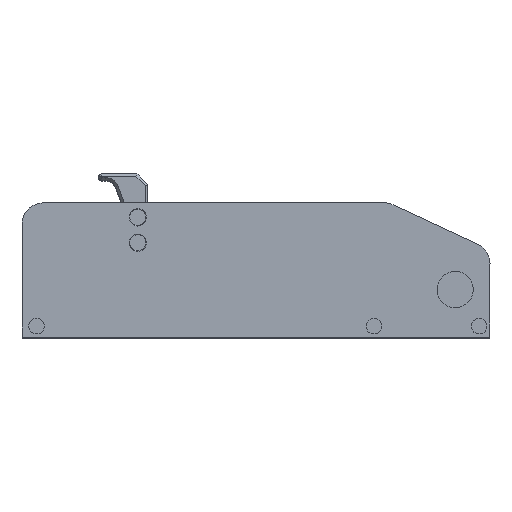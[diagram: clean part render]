
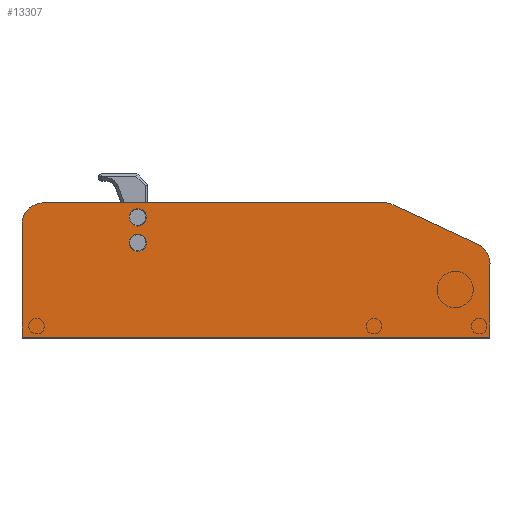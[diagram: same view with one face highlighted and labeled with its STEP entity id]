
A CAD part, top view. The second image highlights one B-rep face of the part: STEP entity #13307.
In plain terms, the highlighted planar face has unit normal (0, 0, 1).
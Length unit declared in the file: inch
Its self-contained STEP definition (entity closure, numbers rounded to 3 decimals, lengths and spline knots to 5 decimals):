
#13211=CARTESIAN_POINT('',(4.70732,2.90948,1.79492));
#13212=DIRECTION('',(0.0,0.0,1.0));
#13213=DIRECTION('',(1.0,0.,0.0));
#13214=AXIS2_PLACEMENT_3D('',#13211,#13212,#13213);
#13215=PLANE('',#13214);
#13216=CARTESIAN_POINT('',(8.52205,3.3542,1.79492));
#13217=VERTEX_POINT('',#13216);
#13218=CARTESIAN_POINT('',(8.73857,3.01433,1.79492));
#13219=VERTEX_POINT('',#13218);
#13220=CARTESIAN_POINT('',(8.36357,3.01433,1.79492));
#13221=DIRECTION('',(0.,0.,-1.0));
#13222=DIRECTION('',(0.843,0.537,0.));
#13223=AXIS2_PLACEMENT_3D('',#13220,#13221,#13222);
#13224=CIRCLE('',#13223,0.375);
#13225=EDGE_CURVE('',#13217,#13219,#13224,.T.);
#13226=ORIENTED_EDGE('',*,*,#13225,.F.);
#13227=CARTESIAN_POINT('',(7.0715,4.0306,1.79492));
#13228=VERTEX_POINT('',#13227);
#13229=CARTESIAN_POINT('',(8.52205,3.3542,1.79492));
#13230=DIRECTION('',(-0.906,0.423,0.));
#13231=VECTOR('',#13230,1.6005);
#13232=LINE('',#13229,#13231);
#13233=EDGE_CURVE('',#13217,#13228,#13232,.T.);
#13234=ORIENTED_EDGE('',*,*,#13233,.T.);
#13235=CARTESIAN_POINT('',(6.91302,4.06573,1.79492));
#13236=VERTEX_POINT('',#13235);
#13237=CARTESIAN_POINT('',(6.91302,3.69073,1.79492));
#13238=DIRECTION('',(0.,0.,-1.0));
#13239=DIRECTION('',(0.216,0.976,0.));
#13240=AXIS2_PLACEMENT_3D('',#13237,#13238,#13239);
#13241=CIRCLE('',#13240,0.375);
#13242=EDGE_CURVE('',#13236,#13228,#13241,.T.);
#13243=ORIENTED_EDGE('',*,*,#13242,.F.);
#13244=CARTESIAN_POINT('',(1.05107,4.06573,1.79492));
#13245=VERTEX_POINT('',#13244);
#13246=CARTESIAN_POINT('',(1.05107,4.06573,1.79492));
#13247=DIRECTION('',(1.0,0.,0.));
#13248=VECTOR('',#13247,5.86195);
#13249=LINE('',#13246,#13248);
#13250=EDGE_CURVE('',#13245,#13236,#13249,.T.);
#13251=ORIENTED_EDGE('',*,*,#13250,.F.);
#13252=CARTESIAN_POINT('',(0.67607,3.69073,1.79492));
#13253=VERTEX_POINT('',#13252);
#13254=CARTESIAN_POINT('',(1.05107,3.69073,1.79492));
#13255=DIRECTION('',(0.,0.,-1.));
#13256=DIRECTION('',(-0.707,0.707,0.));
#13257=AXIS2_PLACEMENT_3D('',#13254,#13255,#13256);
#13258=CIRCLE('',#13257,0.375);
#13259=EDGE_CURVE('',#13253,#13245,#13258,.T.);
#13260=ORIENTED_EDGE('',*,*,#13259,.F.);
#13261=CARTESIAN_POINT('',(0.67607,1.75323,1.79492));
#13262=VERTEX_POINT('',#13261);
#13263=CARTESIAN_POINT('',(0.67607,1.75323,1.79492));
#13264=DIRECTION('',(0.,1.0,0.0));
#13265=VECTOR('',#13264,1.9375);
#13266=LINE('',#13263,#13265);
#13267=EDGE_CURVE('',#13262,#13253,#13266,.T.);
#13268=ORIENTED_EDGE('',*,*,#13267,.F.);
#13269=CARTESIAN_POINT('',(8.73857,1.75323,1.79492));
#13270=VERTEX_POINT('',#13269);
#13271=CARTESIAN_POINT('',(8.73857,1.75323,1.79492));
#13272=DIRECTION('',(-1.0,0.,0.));
#13273=VECTOR('',#13272,8.0625);
#13274=LINE('',#13271,#13273);
#13275=EDGE_CURVE('',#13270,#13262,#13274,.T.);
#13276=ORIENTED_EDGE('',*,*,#13275,.F.);
#13277=CARTESIAN_POINT('',(8.73857,3.01433,1.79492));
#13278=DIRECTION('',(0.,-1.0,0.0));
#13279=VECTOR('',#13278,1.2611);
#13280=LINE('',#13277,#13279);
#13281=EDGE_CURVE('',#13219,#13270,#13280,.T.);
#13282=ORIENTED_EDGE('',*,*,#13281,.F.);
#13283=EDGE_LOOP('',(#13226,#13234,#13243,#13251,#13260,#13268,#13276,#13282));
#13284=FACE_OUTER_BOUND('',#13283,.T.);
#13285=CARTESIAN_POINT('',(2.81957,3.37823,1.79492));
#13286=VERTEX_POINT('',#13285);
#13287=CARTESIAN_POINT('',(2.66957,3.37823,1.79492));
#13288=DIRECTION('',(0.,0.,-1.0));
#13289=DIRECTION('',(1.0,0.,0.));
#13290=AXIS2_PLACEMENT_3D('',#13287,#13288,#13289);
#13291=CIRCLE('',#13290,0.15);
#13292=EDGE_CURVE('',#13286,#13286,#13291,.T.);
#13293=ORIENTED_EDGE('',*,*,#13292,.T.);
#13294=EDGE_LOOP('',(#13293));
#13295=FACE_BOUND('',#13294,.T.);
#13296=CARTESIAN_POINT('',(2.81957,3.81573,1.79492));
#13297=VERTEX_POINT('',#13296);
#13298=CARTESIAN_POINT('',(2.66957,3.81573,1.79492));
#13299=DIRECTION('',(0.,0.,-1.0));
#13300=DIRECTION('',(1.0,0.,0.));
#13301=AXIS2_PLACEMENT_3D('',#13298,#13299,#13300);
#13302=CIRCLE('',#13301,0.15);
#13303=EDGE_CURVE('',#13297,#13297,#13302,.T.);
#13304=ORIENTED_EDGE('',*,*,#13303,.T.);
#13305=EDGE_LOOP('',(#13304));
#13306=FACE_BOUND('',#13305,.T.);
#13307=ADVANCED_FACE('',(#13284,#13295,#13306),#13215,.T.);
